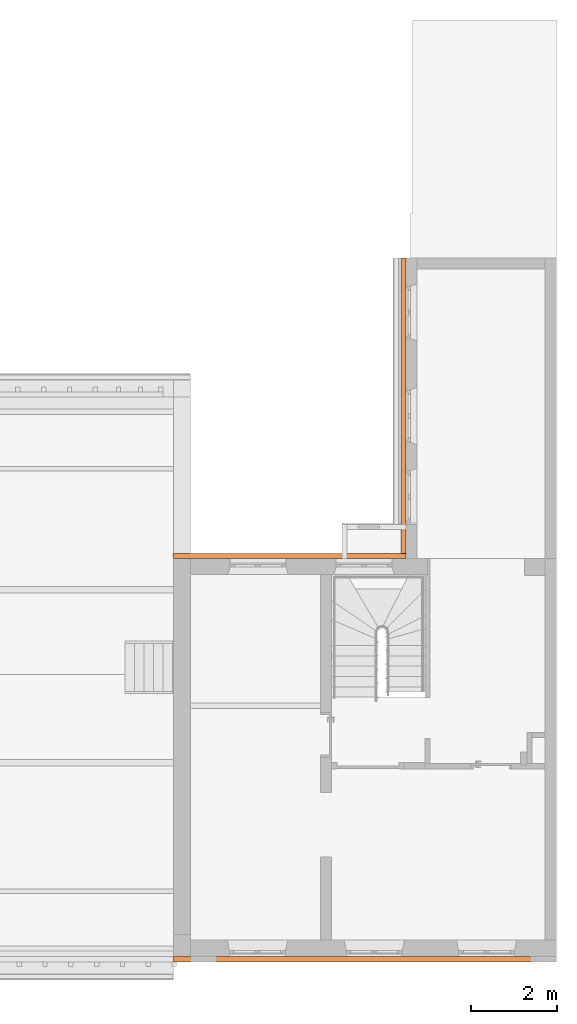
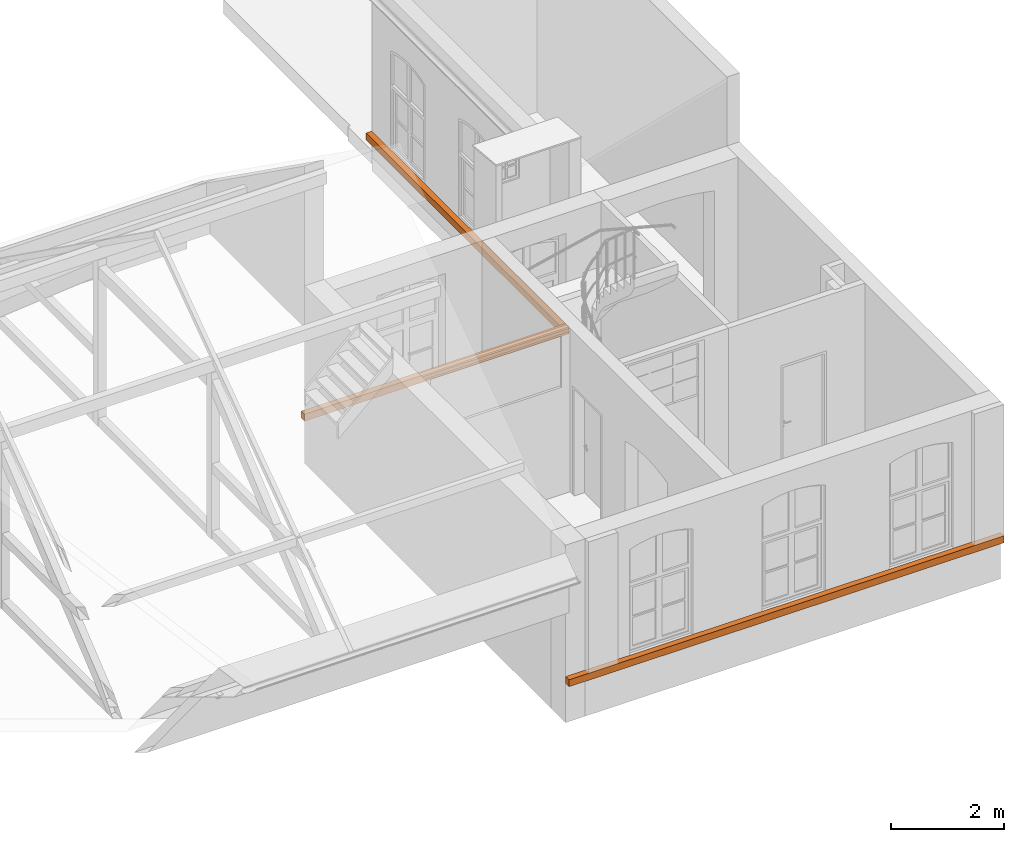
"""IFC4 building model written with IfcOpenShell, lengths in metres."""

from ifc_helpers import new_model, entity, si_unit, converted_unit, derived_unit, frame, origin, place, context, subcontext, project, spatial, faceted_brep, element, save


model = new_model("IFC4")

# Units and contexts
model_context = context("Model", 3, precision=1e-05, world=origin())
body_context = subcontext(model_context, "Body", "Model", "MODEL_VIEW")
ifc_project = project(units=[si_unit("LENGTHUNIT", "METRE"), si_unit("AREAUNIT", "SQUARE_METRE"), si_unit("VOLUMEUNIT", "CUBIC_METRE"), si_unit("MASSUNIT", "GRAM", prefix="KILO"), converted_unit("PLANEANGLEUNIT", "DEGREE", entity("IfcPlaneAngleMeasure", 0.0174532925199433), si_unit("PLANEANGLEUNIT", "RADIAN"), dimensions=[0, 0, 0, 0, 0, 0, 0]), derived_unit("THERMALTRANSMITTANCEUNIT", [(si_unit("POWERUNIT", "WATT"), 1), (si_unit("THERMODYNAMICTEMPERATUREUNIT", "KELVIN"), -1), (si_unit("LENGTHUNIT", "METRE"), -2)]), derived_unit("VOLUMETRICFLOWRATEUNIT", [(si_unit("LENGTHUNIT", "METRE"), 3), (converted_unit("TIMEUNIT", "hour", entity("IfcTimeMeasure", 3600.0), si_unit("TIMEUNIT", "SECOND"), dimensions=[0, 0, 1, 0, 0, 0, 0]), -1), (si_unit("LENGTHUNIT", "METRE"), -1)])], contexts=[model_context])

# Building, storeys
building_placement = place(None, origin())
building = spatial("IfcBuilding", under=ifc_project, at=building_placement, Name="Bestandsgebäude A - Sporthalle / Wohnhaus (TB 100-499)   ANPASSEN !!!", CompositionType="ELEMENT")
storey_1_placement = place(building_placement, frame((0.0, 0.0, 3.87)))
storey_1 = spatial("IfcBuildingStorey", under=building, at=storey_1_placement, Name="Geb. A 1. Obergeschoss (TB 250-299)", CompositionType="ELEMENT", Elevation=3.87)
storey_2_placement = place(storey_1_placement, frame((0.0, 0.0, 3.87)))
storey_2 = spatial("IfcBuildingStorey", under=storey_1, at=storey_2_placement, Name="Architektur (TB 250-259)", CompositionType="PARTIAL")

# Proxies
proxy_1_placement = place(storey_2_placement, frame((-8.90000000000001, -0.120000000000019, -3.42)))
element("IfcBuildingElementProxy", 1, at=proxy_1_placement, inside=storey_2, context=body_context, shape_type="Brep", body=[
    faceted_brep([(0.0, 0.120000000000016, 0.0), (0.000235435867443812, 0.0200000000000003, 0.0), (0.000235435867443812, 0.0, 0.0), (8.9, 0.0, 0.0), (8.9, 0.119999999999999, 0.0), (0.0, 0.120000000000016, 0.15), (8.9, 0.119999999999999, 0.15), (8.9, 0.0, 0.15), (0.000235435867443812, 0.0, 0.15), (0.000235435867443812, 0.0200000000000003, 0.15)], [[[0, 1, 2, 3, 4]], [[5, 6, 7, 8, 9]], [[9, 1, 0, 5]], [[6, 4, 3, 7]], [[5, 0, 4, 6]], [[9, 8, 2, 1]], [[7, 3, 2, 8]]], orient=[[False], [False], [False], [False], [False], [False], [False]]),
])
proxy_2_placement = place(storey_2_placement, frame((-3.61000000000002, 9.24999999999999, -3.36)))
element("IfcBuildingElementProxy", 2, at=proxy_2_placement, inside=storey_2, context=body_context, shape_type="Brep", body=[
    faceted_brep([(0.120000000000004, 0.0, 0.0), (0.120000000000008, 6.98, 0.0), (0.0, 6.98, 0.0), (0.0, 0.0, 0.0), (0.0, 0.0, 0.15), (0.0, 6.98, 0.15), (0.120000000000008, 6.98, 0.15), (0.120000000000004, 0.0, 0.15)], [[[0, 1, 2, 3]], [[4, 5, 6, 7]], [[5, 2, 1, 6]], [[3, 2, 5, 4]], [[6, 1, 0, 7]], [[3, 4, 7, 0]]], orient=[[False], [False], [False], [False], [False], [False]]),
])
proxy_3_placement = place(storey_2_placement, frame((-8.90023543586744, 9.25, -3.36)))
element("IfcBuildingElementProxy", 3, at=proxy_3_placement, inside=storey_2, context=body_context, shape_type="Brep", body=[
    faceted_brep([(0.0, 0.120000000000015, 0.0), (0.000235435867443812, 0.02, 0.0), (0.000235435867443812, 0.0, 0.0), (5.41023543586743, 0.0, 0.0), (5.41023543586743, 0.120000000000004, 0.0), (0.0, 0.120000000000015, 0.15), (5.41023543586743, 0.120000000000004, 0.15), (5.41023543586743, 0.0, 0.15), (0.000235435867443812, 0.0, 0.15), (0.000235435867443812, 0.02, 0.15)], [[[0, 1, 2, 3, 4]], [[5, 6, 7, 8, 9]], [[9, 1, 0, 5]], [[5, 0, 4, 6]], [[9, 8, 2, 1]], [[3, 2, 8, 7]], [[4, 3, 7, 6]]], orient=[[False], [False], [False], [False], [False], [False], [False]]),
])

save(model, "model.ifc")
